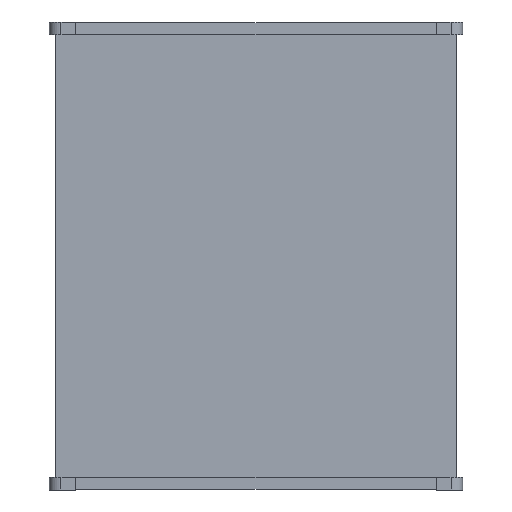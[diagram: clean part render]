
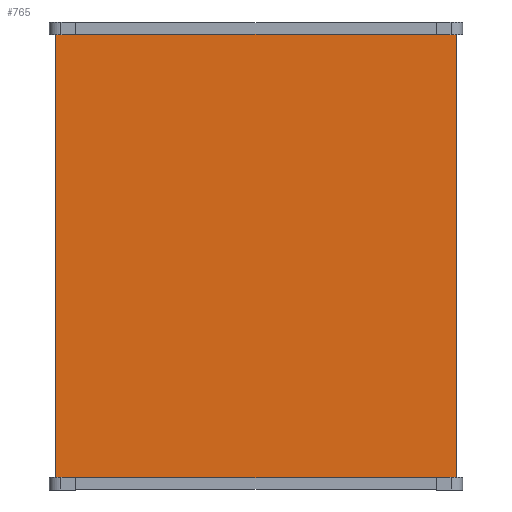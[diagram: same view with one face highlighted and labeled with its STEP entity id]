
A CAD part, front view. The second image highlights one B-rep face of the part: STEP entity #765.
In plain terms, the highlighted planar face has unit normal (0, -1, 0).
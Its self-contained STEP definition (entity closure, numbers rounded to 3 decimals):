
#765=ADVANCED_FACE('',(#1564),#1565,.F.);
#1564=FACE_OUTER_BOUND('',#2383,.T.);
#1565=PLANE('',#2384);
#2383=EDGE_LOOP('',(#4846,#4847,#4848,#4849,#4850,#4851,#4852,#4853,#4854,#4855,#4856,#4857,#4858,#4859,#4860,#4861,#4862,#4863,#4864,#4865,#4866,#4867,#4868,#4869,#4870,#4871,#4872,#4873));
#2384=AXIS2_PLACEMENT_3D('',#4874,#4875,#4876);
#4846=ORIENTED_EDGE('',*,*,#5827,.T.);
#4847=ORIENTED_EDGE('',*,*,#5861,.T.);
#4848=ORIENTED_EDGE('',*,*,#5997,.T.);
#4849=ORIENTED_EDGE('',*,*,#5182,.T.);
#4850=ORIENTED_EDGE('',*,*,#6131,.T.);
#4851=ORIENTED_EDGE('',*,*,#5988,.T.);
#4852=ORIENTED_EDGE('',*,*,#5996,.T.);
#4853=ORIENTED_EDGE('',*,*,#6018,.T.);
#4854=ORIENTED_EDGE('',*,*,#6031,.T.);
#4855=ORIENTED_EDGE('',*,*,#6093,.T.);
#4856=ORIENTED_EDGE('',*,*,#6117,.T.);
#4857=ORIENTED_EDGE('',*,*,#6109,.T.);
#4858=ORIENTED_EDGE('',*,*,#6129,.T.);
#4859=ORIENTED_EDGE('',*,*,#5156,.T.);
#4860=ORIENTED_EDGE('',*,*,#6120,.T.);
#4861=ORIENTED_EDGE('',*,*,#5908,.F.);
#4862=ORIENTED_EDGE('',*,*,#5940,.T.);
#4863=ORIENTED_EDGE('',*,*,#5201,.T.);
#4864=ORIENTED_EDGE('',*,*,#6132,.T.);
#4865=ORIENTED_EDGE('',*,*,#5935,.T.);
#4866=ORIENTED_EDGE('',*,*,#5939,.T.);
#4867=ORIENTED_EDGE('',*,*,#5927,.T.);
#4868=ORIENTED_EDGE('',*,*,#6133,.T.);
#4869=ORIENTED_EDGE('',*,*,#5810,.T.);
#4870=ORIENTED_EDGE('',*,*,#5828,.T.);
#4871=ORIENTED_EDGE('',*,*,#5807,.T.);
#4872=ORIENTED_EDGE('',*,*,#6134,.T.);
#4873=ORIENTED_EDGE('',*,*,#5218,.T.);
#4874=CARTESIAN_POINT('',(0.,-180.96,-362.5));
#4875=DIRECTION('',(0.,1.0,0.0));
#4876=DIRECTION('',(0.,0.,1.0));
#5156=EDGE_CURVE('',#6244,#6242,#6245,.T.);
#5182=EDGE_CURVE('',#6292,#6290,#6293,.T.);
#5201=EDGE_CURVE('',#6327,#6325,#6328,.T.);
#5218=EDGE_CURVE('',#6358,#6356,#6359,.T.);
#5807=EDGE_CURVE('',#7256,#7254,#7257,.T.);
#5810=EDGE_CURVE('',#7260,#7261,#7262,.T.);
#5827=EDGE_CURVE('',#6356,#7288,#7291,.T.);
#5828=EDGE_CURVE('',#7261,#7256,#7292,.T.);
#5861=EDGE_CURVE('',#7288,#7340,#7342,.T.);
#5908=EDGE_CURVE('',#7407,#7409,#7410,.T.);
#5927=EDGE_CURVE('',#7439,#7437,#7440,.T.);
#5935=EDGE_CURVE('',#7453,#7451,#7454,.T.);
#5939=EDGE_CURVE('',#7451,#7439,#7458,.T.);
#5940=EDGE_CURVE('',#7407,#6327,#7459,.T.);
#5988=EDGE_CURVE('',#7520,#7518,#7521,.T.);
#5996=EDGE_CURVE('',#7518,#7530,#7531,.T.);
#5997=EDGE_CURVE('',#7340,#6292,#7532,.T.);
#6018=EDGE_CURVE('',#7530,#7562,#7563,.T.);
#6031=EDGE_CURVE('',#7562,#7580,#7582,.T.);
#6093=EDGE_CURVE('',#7580,#7667,#7668,.T.);
#6109=EDGE_CURVE('',#7691,#7689,#7692,.T.);
#6117=EDGE_CURVE('',#7667,#7691,#7704,.T.);
#6120=EDGE_CURVE('',#6242,#7409,#7707,.T.);
#6129=EDGE_CURVE('',#7689,#6244,#7716,.T.);
#6131=EDGE_CURVE('',#6290,#7520,#7718,.T.);
#6132=EDGE_CURVE('',#6325,#7453,#7719,.T.);
#6133=EDGE_CURVE('',#7437,#7260,#7720,.T.);
#6134=EDGE_CURVE('',#7254,#6358,#7721,.T.);
#6242=VERTEX_POINT('',#7853);
#6244=VERTEX_POINT('',#7855);
#6245=LINE('',#7856,#7857);
#6290=VERTEX_POINT('',#7912);
#6292=VERTEX_POINT('',#7914);
#6293=LINE('',#7915,#7916);
#6325=VERTEX_POINT('',#7955);
#6327=VERTEX_POINT('',#7957);
#6328=LINE('',#7958,#7959);
#6356=VERTEX_POINT('',#7993);
#6358=VERTEX_POINT('',#7995);
#6359=LINE('',#7996,#7997);
#7254=VERTEX_POINT('',#9091);
#7256=VERTEX_POINT('',#9093);
#7257=LINE('',#9094,#9095);
#7260=VERTEX_POINT('',#9098);
#7261=VERTEX_POINT('',#9099);
#7262=LINE('',#9100,#9101);
#7288=VERTEX_POINT('',#9139);
#7291=LINE('',#9143,#9144);
#7292=LINE('',#9145,#9146);
#7340=VERTEX_POINT('',#9215);
#7342=LINE('',#9218,#9219);
#7407=VERTEX_POINT('',#9312);
#7409=VERTEX_POINT('',#9315);
#7410=LINE('',#9316,#9317);
#7437=VERTEX_POINT('',#9357);
#7439=VERTEX_POINT('',#9360);
#7440=LINE('',#9361,#9362);
#7451=VERTEX_POINT('',#9378);
#7453=VERTEX_POINT('',#9380);
#7454=LINE('',#9381,#9382);
#7458=LINE('',#9386,#9387);
#7459=LINE('',#9388,#9389);
#7518=VERTEX_POINT('',#9469);
#7520=VERTEX_POINT('',#9471);
#7521=LINE('',#9472,#9473);
#7530=VERTEX_POINT('',#9484);
#7531=LINE('',#9485,#9486);
#7532=LINE('',#9487,#9488);
#7562=VERTEX_POINT('',#9530);
#7563=LINE('',#9531,#9532);
#7580=VERTEX_POINT('',#9557);
#7582=LINE('',#9560,#9561);
#7667=VERTEX_POINT('',#9683);
#7668=LINE('',#9684,#9685);
#7689=VERTEX_POINT('',#9715);
#7691=VERTEX_POINT('',#9717);
#7692=LINE('',#9718,#9719);
#7704=LINE('',#9733,#9734);
#7707=LINE('',#9739,#9740);
#7716=LINE('',#9751,#9752);
#7718=LINE('',#9754,#9755);
#7719=LINE('',#9756,#9757);
#7720=LINE('',#9758,#9759);
#7721=LINE('',#9760,#9761);
#7853=CARTESIAN_POINT('',(-311.982,-180.96,-19.125));
#7855=CARTESIAN_POINT('',(-311.982,-180.96,-18.225));
#7856=CARTESIAN_POINT('',(-311.982,-180.96,-18.625));
#7857=VECTOR('',#9908,1.0);
#7912=CARTESIAN_POINT('',(311.982,-180.96,-18.225));
#7914=CARTESIAN_POINT('',(311.982,-180.96,-19.125));
#7915=CARTESIAN_POINT('',(311.982,-180.96,-18.625));
#7916=VECTOR('',#9952,1.0);
#7955=CARTESIAN_POINT('',(-311.982,-180.96,-706.775));
#7957=CARTESIAN_POINT('',(-311.982,-180.96,-705.875));
#7958=CARTESIAN_POINT('',(-311.982,-180.96,-706.375));
#7959=VECTOR('',#9984,1.0);
#7993=CARTESIAN_POINT('',(311.982,-180.96,-705.875));
#7995=CARTESIAN_POINT('',(311.982,-180.96,-706.775));
#7996=CARTESIAN_POINT('',(311.982,-180.96,-706.375));
#7997=VECTOR('',#10012,1.0);
#9091=CARTESIAN_POINT('',(308.018,-180.96,-706.775));
#9093=CARTESIAN_POINT('',(308.018,-180.96,-705.875));
#9094=CARTESIAN_POINT('',(308.018,-180.96,-706.375));
#9095=VECTOR('',#10956,1.0);
#9098=CARTESIAN_POINT('',(280.0,-180.96,-706.875));
#9099=CARTESIAN_POINT('',(280.0,-180.96,-705.875));
#9100=CARTESIAN_POINT('',(280.0,-180.96,-539.219));
#9101=VECTOR('',#10960,1.0);
#9139=CARTESIAN_POINT('',(312.0,-180.96,-705.875));
#9143=CARTESIAN_POINT('',(150.25,-180.96,-705.875));
#9144=VECTOR('',#10977,1.0);
#9145=CARTESIAN_POINT('',(150.25,-180.96,-705.875));
#9146=VECTOR('',#10978,1.0);
#9215=CARTESIAN_POINT('',(312.0,-180.96,-19.125));
#9218=CARTESIAN_POINT('',(312.0,-180.96,-362.5));
#9219=VECTOR('',#11010,1.0);
#9312=CARTESIAN_POINT('',(-312.0,-180.96,-705.875));
#9315=CARTESIAN_POINT('',(-312.0,-180.96,-19.125));
#9316=CARTESIAN_POINT('',(-312.0,-180.96,-362.5));
#9317=VECTOR('',#11055,1.0);
#9357=CARTESIAN_POINT('',(-280.0,-180.96,-706.875));
#9360=CARTESIAN_POINT('',(-280.0,-180.96,-705.875));
#9361=CARTESIAN_POINT('',(-280.0,-180.96,-539.219));
#9362=VECTOR('',#11070,1.0);
#9378=CARTESIAN_POINT('',(-308.018,-180.96,-705.875));
#9380=CARTESIAN_POINT('',(-308.018,-180.96,-706.775));
#9381=CARTESIAN_POINT('',(-308.018,-180.96,-706.375));
#9382=VECTOR('',#11079,1.0);
#9386=CARTESIAN_POINT('',(-150.25,-180.96,-705.875));
#9387=VECTOR('',#11086,1.0);
#9388=CARTESIAN_POINT('',(-150.25,-180.96,-705.875));
#9389=VECTOR('',#11087,1.0);
#9469=CARTESIAN_POINT('',(308.018,-180.96,-19.125));
#9471=CARTESIAN_POINT('',(308.018,-180.96,-18.225));
#9472=CARTESIAN_POINT('',(308.018,-180.96,-18.625));
#9473=VECTOR('',#11139,1.0);
#9484=CARTESIAN_POINT('',(280.0,-180.96,-19.125));
#9485=CARTESIAN_POINT('',(150.25,-180.96,-19.125));
#9486=VECTOR('',#11151,1.0);
#9487=CARTESIAN_POINT('',(150.25,-180.96,-19.125));
#9488=VECTOR('',#11152,1.0);
#9530=CARTESIAN_POINT('',(280.0,-180.96,-18.125));
#9531=CARTESIAN_POINT('',(280.0,-180.96,-185.781));
#9532=VECTOR('',#11174,1.0);
#9557=CARTESIAN_POINT('',(-280.0,-180.96,-18.125));
#9560=CARTESIAN_POINT('',(0.,-180.96,-18.125));
#9561=VECTOR('',#11184,1.0);
#9683=CARTESIAN_POINT('',(-280.0,-180.96,-19.125));
#9684=CARTESIAN_POINT('',(-280.0,-180.96,-185.781));
#9685=VECTOR('',#11240,1.0);
#9715=CARTESIAN_POINT('',(-308.018,-180.96,-18.225));
#9717=CARTESIAN_POINT('',(-308.018,-180.96,-19.125));
#9718=CARTESIAN_POINT('',(-308.018,-180.96,-18.625));
#9719=VECTOR('',#11259,1.0);
#9733=CARTESIAN_POINT('',(-150.25,-180.96,-19.125));
#9734=VECTOR('',#11271,1.0);
#9739=CARTESIAN_POINT('',(-150.25,-180.96,-19.125));
#9740=VECTOR('',#11274,1.0);
#9751=CARTESIAN_POINT('',(-150.05,-180.96,-18.225));
#9752=VECTOR('',#11280,1.0);
#9754=CARTESIAN_POINT('',(150.05,-180.96,-18.225));
#9755=VECTOR('',#11281,1.0);
#9756=CARTESIAN_POINT('',(-150.05,-180.96,-706.775));
#9757=VECTOR('',#11282,1.0);
#9758=CARTESIAN_POINT('',(0.,-180.96,-706.875));
#9759=VECTOR('',#11283,1.0);
#9760=CARTESIAN_POINT('',(150.05,-180.96,-706.775));
#9761=VECTOR('',#11284,1.0);
#9908=DIRECTION('',(0.,0.,-1.0));
#9952=DIRECTION('',(0.,0.,1.0));
#9984=DIRECTION('',(0.,0.,-1.0));
#10012=DIRECTION('',(0.,0.,1.0));
#10956=DIRECTION('',(0.,0.,-1.0));
#10960=DIRECTION('',(0.0,0.0,1.0));
#10977=DIRECTION('',(1.0,0.,0.0));
#10978=DIRECTION('',(1.0,0.,0.0));
#11010=DIRECTION('',(0.,0.,1.0));
#11055=DIRECTION('',(0.,0.,1.0));
#11070=DIRECTION('',(0.,0.,-1.0));
#11079=DIRECTION('',(0.,0.,1.0));
#11086=DIRECTION('',(1.0,0.,0.));
#11087=DIRECTION('',(1.0,0.,0.));
#11139=DIRECTION('',(0.,0.,-1.0));
#11151=DIRECTION('',(-1.0,0.,0.0));
#11152=DIRECTION('',(-1.0,0.,0.0));
#11174=DIRECTION('',(0.0,0.0,1.0));
#11184=DIRECTION('',(-1.0,0.,0.));
#11240=DIRECTION('',(0.,0.,-1.0));
#11259=DIRECTION('',(0.,0.,1.0));
#11271=DIRECTION('',(-1.0,0.,0.));
#11274=DIRECTION('',(-1.0,0.,0.));
#11280=DIRECTION('',(-1.0,0.,0.));
#11281=DIRECTION('',(-1.0,0.,0.0));
#11282=DIRECTION('',(1.0,0.,0.));
#11283=DIRECTION('',(1.0,0.,0.));
#11284=DIRECTION('',(1.0,0.,0.0));
